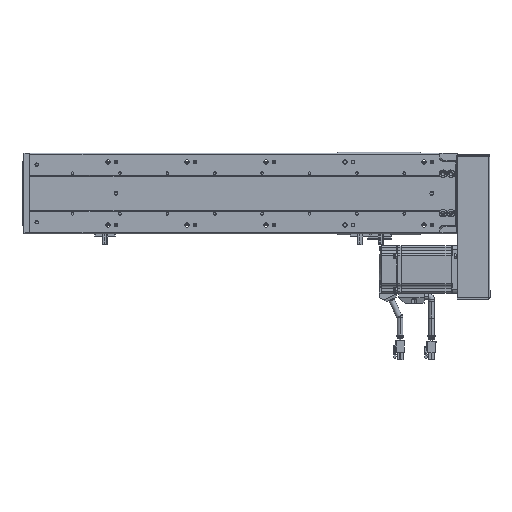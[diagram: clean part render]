
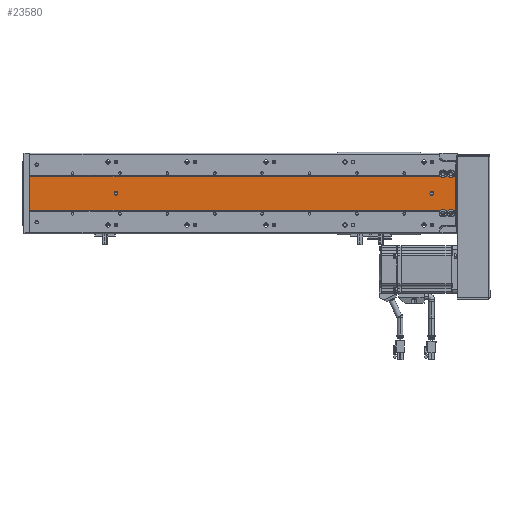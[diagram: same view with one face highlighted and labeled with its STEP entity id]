
A CAD part, front view. The second image highlights one B-rep face of the part: STEP entity #23580.
In plain terms, the highlighted planar face has unit normal (0, -1, 0).
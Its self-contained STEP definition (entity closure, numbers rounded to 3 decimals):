
#1374 = DIRECTION ( 'NONE',  ( 1., 0., 0. ) ) ;
#1425 = CARTESIAN_POINT ( 'NONE',  ( 140.403, 89.548, 509. ) ) ;
#1427 = DIRECTION ( 'NONE',  ( 0., -1., 0. ) ) ;
#1710 = CARTESIAN_POINT ( 'NONE',  ( 118.817, 89.548, 539. ) ) ;
#1731 = DIRECTION ( 'NONE',  ( 0., 0., -1. ) ) ;
#1773 = DIRECTION ( 'NONE',  ( 1., 0., 0. ) ) ;
#1811 = CARTESIAN_POINT ( 'NONE',  ( 161.989, 89.548, 539. ) ) ;
#1836 = CARTESIAN_POINT ( 'NONE',  ( 161.989, 89.548, 539. ) ) ;
#1842 = DIRECTION ( 'NONE',  ( 0., 0., -1. ) ) ;
#1894 = CARTESIAN_POINT ( 'NONE',  ( 161.989, 89.548, 539. ) ) ;
#1913 = DIRECTION ( 'NONE',  ( 0., 0., -1. ) ) ;
#2257 = CARTESIAN_POINT ( 'NONE',  ( 118.817, 89.548, 539. ) ) ;
#2385 = DIRECTION ( 'NONE',  ( 0., 0., -1. ) ) ;
#3185 = DIRECTION ( 'NONE',  ( 0., -1., 0. ) ) ;
#3206 = CARTESIAN_POINT ( 'NONE',  ( 140.403, 89.548, 109. ) ) ;
#3214 = DIRECTION ( 'NONE',  ( 1., 0., 0. ) ) ;
#4346 = PLANE ( 'NONE',  #72505 ) ;
#4354 = CARTESIAN_POINT ( 'NONE',  ( 161.989, 89.548, 539. ) ) ;
#4355 = DIRECTION ( 'NONE',  ( 0., 1., 0. ) ) ;
#4389 = DIRECTION ( 'NONE',  ( -1., 0., 0. ) ) ;
#6527 = CIRCLE ( 'NONE', #70494, 2.5 ) ;
#6569 = CIRCLE ( 'NONE', #70479, 2.5 ) ;
#7492 = LINE ( 'NONE', #1710, #7494 ) ;
#7494 = VECTOR ( 'NONE', #1731, 1000. ) ;
#7565 = LINE ( 'NONE', #1811, #7602 ) ;
#7566 = VECTOR ( 'NONE', #1913, 1000. ) ;
#7579 = VECTOR ( 'NONE', #1842, 1000. ) ;
#7582 = LINE ( 'NONE', #1836, #7579 ) ;
#7602 = VECTOR ( 'NONE', #1773, 1000. ) ;
#7605 = LINE ( 'NONE', #1894, #7566 ) ;
#7630 = VECTOR ( 'NONE', #2385, 1000. ) ;
#7642 = LINE ( 'NONE', #2257, #7630 ) ;
#13401 = EDGE_CURVE ( 'NONE', #18760, #18745, #6527, .T. ) ;
#13435 = EDGE_CURVE ( 'NONE', #18813, #18712, #6569, .T. ) ;
#15139 = CARTESIAN_POINT ( 'NONE',  ( 165.403, 89.548, 523. ) ) ;
#15192 = DIRECTION ( 'NONE',  ( 0., 1., 0. ) ) ;
#15202 = DIRECTION ( 'NONE',  ( -1., 0., 0. ) ) ;
#15239 = CARTESIAN_POINT ( 'NONE',  ( 165.403, 89.548, 533. ) ) ;
#15241 = DIRECTION ( 'NONE',  ( -1., 0., 0. ) ) ;
#15306 = DIRECTION ( 'NONE',  ( 0., 1., 0. ) ) ;
#18467 = VERTEX_POINT ( 'NONE', #90456 ) ;
#18469 = VERTEX_POINT ( 'NONE', #90482 ) ;
#18558 = VERTEX_POINT ( 'NONE', #90518 ) ;
#18588 = VERTEX_POINT ( 'NONE', #90487 ) ;
#18712 = VERTEX_POINT ( 'NONE', #90676 ) ;
#18745 = VERTEX_POINT ( 'NONE', #90691 ) ;
#18760 = VERTEX_POINT ( 'NONE', #90706 ) ;
#18813 = VERTEX_POINT ( 'NONE', #90736 ) ;
#18916 = VERTEX_POINT ( 'NONE', #90817 ) ;
#18933 = VERTEX_POINT ( 'NONE', #90818 ) ;
#18978 = VERTEX_POINT ( 'NONE', #90850 ) ;
#19003 = VERTEX_POINT ( 'NONE', #90887 ) ;
#19052 = VERTEX_POINT ( 'NONE', #90870 ) ;
#19065 = VERTEX_POINT ( 'NONE', #90873 ) ;
#19072 = VERTEX_POINT ( 'NONE', #90895 ) ;
#19845 = VERTEX_POINT ( 'NONE', #85535 ) ;
#20757 = CIRCLE ( 'NONE', #32626, 4.75 ) ;
#20803 = CIRCLE ( 'NONE', #32771, 4.75 ) ;
#23580 = ADVANCED_FACE ( 'NONE', ( #85827, #85947, #85917 ), #4346, .F. ) ;
#25840 = LINE ( 'NONE', #62025, #25876 ) ;
#25859 = CIRCLE ( 'NONE', #33575, 2.5 ) ;
#25876 = VECTOR ( 'NONE', #62043, 1000. ) ;
#25899 = CIRCLE ( 'NONE', #33782, 4.75 ) ;
#26038 = LINE ( 'NONE', #62085, #26056 ) ;
#26056 = VECTOR ( 'NONE', #62076, 1000. ) ;
#26493 = LINE ( 'NONE', #77014, #26526 ) ;
#26526 = VECTOR ( 'NONE', #76907, 1000. ) ;
#32626 = AXIS2_PLACEMENT_3D ( 'NONE', #15139, #15192, #15202 ) ;
#32771 = AXIS2_PLACEMENT_3D ( 'NONE', #15239, #15306, #15241 ) ;
#33575 = AXIS2_PLACEMENT_3D ( 'NONE', #61996, #62019, #61983 ) ;
#33645 = AXIS2_PLACEMENT_3D ( 'NONE', #62108, #62109, #62102 ) ;
#33782 = AXIS2_PLACEMENT_3D ( 'NONE', #61981, #62005, #61997 ) ;
#33810 = AXIS2_PLACEMENT_3D ( 'NONE', #62117, #62118, #62122 ) ;
#48830 = ORIENTED_EDGE ( 'NONE', *, *, #97520, .T. ) ;
#48836 = ORIENTED_EDGE ( 'NONE', *, *, #82112, .T. ) ;
#48873 = ORIENTED_EDGE ( 'NONE', *, *, #97494, .T. ) ;
#49007 = ORIENTED_EDGE ( 'NONE', *, *, #81360, .T. ) ;
#49013 = ORIENTED_EDGE ( 'NONE', *, *, #97543, .F. ) ;
#49016 = ORIENTED_EDGE ( 'NONE', *, *, #81342, .T. ) ;
#49020 = ORIENTED_EDGE ( 'NONE', *, *, #13435, .F. ) ;
#49042 = ORIENTED_EDGE ( 'NONE', *, *, #97460, .F. ) ;
#49083 = ORIENTED_EDGE ( 'NONE', *, *, #82064, .F. ) ;
#49088 = ORIENTED_EDGE ( 'NONE', *, *, #82049, .F. ) ;
#49091 = ORIENTED_EDGE ( 'NONE', *, *, #97485, .T. ) ;
#49096 = ORIENTED_EDGE ( 'NONE', *, *, #82047, .F. ) ;
#49119 = ORIENTED_EDGE ( 'NONE', *, *, #82027, .T. ) ;
#49148 = ORIENTED_EDGE ( 'NONE', *, *, #97534, .T. ) ;
#49161 = ORIENTED_EDGE ( 'NONE', *, *, #97484, .F. ) ;
#49171 = ORIENTED_EDGE ( 'NONE', *, *, #13401, .F. ) ;
#57984 = EDGE_LOOP ( 'NONE', ( #49161, #49171 ) ) ;
#58016 = EDGE_LOOP ( 'NONE', ( #49083, #49007, #49042, #49088, #48830, #49148, #48836, #49091, #49119, #48873, #49096, #49016 ) ) ;
#58019 = EDGE_LOOP ( 'NONE', ( #49013, #49020 ) ) ;
#61981 = CARTESIAN_POINT ( 'NONE',  ( 115.403, 89.548, 523. ) ) ;
#61983 = DIRECTION ( 'NONE',  ( 1., 0., 0. ) ) ;
#61996 = CARTESIAN_POINT ( 'NONE',  ( 140.403, 89.548, 509. ) ) ;
#61997 = DIRECTION ( 'NONE',  ( -1., 0., 0. ) ) ;
#62005 = DIRECTION ( 'NONE',  ( 0., 1., 0. ) ) ;
#62019 = DIRECTION ( 'NONE',  ( 0., -1., 0. ) ) ;
#62025 = CARTESIAN_POINT ( 'NONE',  ( 161.989, 89.548, 0. ) ) ;
#62043 = DIRECTION ( 'NONE',  ( 1., 0., 0. ) ) ;
#62076 = DIRECTION ( 'NONE',  ( 0., 0., -1. ) ) ;
#62085 = CARTESIAN_POINT ( 'NONE',  ( 118.817, 89.548, 539. ) ) ;
#62102 = DIRECTION ( 'NONE',  ( -1., 0., 0. ) ) ;
#62108 = CARTESIAN_POINT ( 'NONE',  ( 115.403, 89.548, 533. ) ) ;
#62109 = DIRECTION ( 'NONE',  ( 0., 1., 0. ) ) ;
#62117 = CARTESIAN_POINT ( 'NONE',  ( 140.403, 89.548, 109. ) ) ;
#62118 = DIRECTION ( 'NONE',  ( 0., -1., 0. ) ) ;
#62122 = DIRECTION ( 'NONE',  ( 1., 0., 0. ) ) ;
#70479 = AXIS2_PLACEMENT_3D ( 'NONE', #3206, #3185, #3214 ) ;
#70494 = AXIS2_PLACEMENT_3D ( 'NONE', #1425, #1427, #1374 ) ;
#72505 = AXIS2_PLACEMENT_3D ( 'NONE', #4354, #4355, #4389 ) ;
#76907 = DIRECTION ( 'NONE',  ( 0., 0., -1. ) ) ;
#77014 = CARTESIAN_POINT ( 'NONE',  ( 161.989, 89.548, 539. ) ) ;
#81342 = EDGE_CURVE ( 'NONE', #18467, #18469, #20757, .T. ) ;
#81360 = EDGE_CURVE ( 'NONE', #18588, #18558, #20803, .T. ) ;
#82027 = EDGE_CURVE ( 'NONE', #18978, #18916, #7492, .T. ) ;
#82047 = EDGE_CURVE ( 'NONE', #18467, #18933, #7582, .T. ) ;
#82049 = EDGE_CURVE ( 'NONE', #19072, #19065, #7565, .T. ) ;
#82064 = EDGE_CURVE ( 'NONE', #18588, #18469, #7605, .T. ) ;
#82112 = EDGE_CURVE ( 'NONE', #19052, #19003, #7642, .T. ) ;
#85535 = CARTESIAN_POINT ( 'NONE',  ( 118.817, 89.548, 536.302 ) ) ;
#85827 = FACE_BOUND ( 'NONE', #57984, .T. ) ;
#85917 = FACE_OUTER_BOUND ( 'NONE', #58016, .T. ) ;
#85947 = FACE_BOUND ( 'NONE', #58019, .T. ) ;
#90456 = CARTESIAN_POINT ( 'NONE',  ( 161.989, 89.548, 519.698 ) ) ;
#90482 = CARTESIAN_POINT ( 'NONE',  ( 161.989, 89.548, 526.302 ) ) ;
#90487 = CARTESIAN_POINT ( 'NONE',  ( 161.989, 89.548, 529.698 ) ) ;
#90518 = CARTESIAN_POINT ( 'NONE',  ( 161.989, 89.548, 536.302 ) ) ;
#90676 = CARTESIAN_POINT ( 'NONE',  ( 142.903, 89.548, 109. ) ) ;
#90691 = CARTESIAN_POINT ( 'NONE',  ( 142.903, 89.548, 509. ) ) ;
#90706 = CARTESIAN_POINT ( 'NONE',  ( 137.903, 89.548, 509. ) ) ;
#90736 = CARTESIAN_POINT ( 'NONE',  ( 137.903, 89.548, 109. ) ) ;
#90817 = CARTESIAN_POINT ( 'NONE',  ( 118.817, 89.548, 0. ) ) ;
#90818 = CARTESIAN_POINT ( 'NONE',  ( 161.989, 89.548, 0. ) ) ;
#90850 = CARTESIAN_POINT ( 'NONE',  ( 118.817, 89.548, 519.698 ) ) ;
#90870 = CARTESIAN_POINT ( 'NONE',  ( 118.817, 89.548, 529.698 ) ) ;
#90873 = CARTESIAN_POINT ( 'NONE',  ( 161.989, 89.548, 539. ) ) ;
#90887 = CARTESIAN_POINT ( 'NONE',  ( 118.817, 89.548, 526.302 ) ) ;
#90895 = CARTESIAN_POINT ( 'NONE',  ( 118.817, 89.548, 539. ) ) ;
#97460 = EDGE_CURVE ( 'NONE', #19065, #18558, #26493, .T. ) ;
#97484 = EDGE_CURVE ( 'NONE', #18745, #18760, #25859, .T. ) ;
#97485 = EDGE_CURVE ( 'NONE', #19003, #18978, #25899, .T. ) ;
#97494 = EDGE_CURVE ( 'NONE', #18916, #18933, #25840, .T. ) ;
#97520 = EDGE_CURVE ( 'NONE', #19072, #19845, #26038, .T. ) ;
#97534 = EDGE_CURVE ( 'NONE', #19845, #19052, #101636, .T. ) ;
#97543 = EDGE_CURVE ( 'NONE', #18712, #18813, #101679, .T. ) ;
#101636 = CIRCLE ( 'NONE', #33645, 4.75 ) ;
#101679 = CIRCLE ( 'NONE', #33810, 2.5 ) ;
